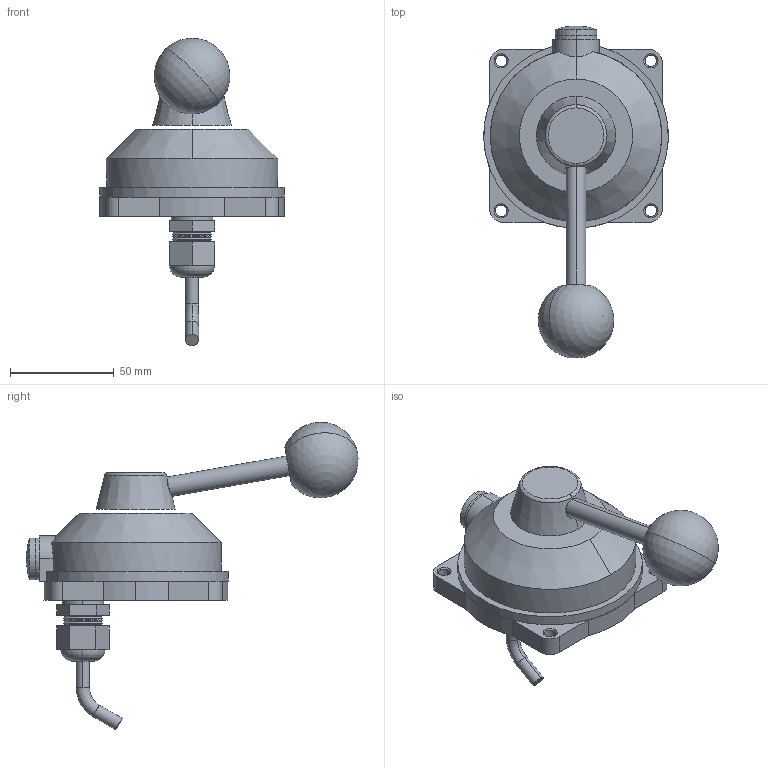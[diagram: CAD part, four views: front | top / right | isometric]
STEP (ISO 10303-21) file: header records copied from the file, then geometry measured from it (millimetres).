
FILE_DESCRIPTION (( 'STEP AP214' ), '1' );
FILE_NAME ('7170-A2.STEP', '2019-02-04T21:42:36', ( '' ), ( '' ), 'SwSTEP 2.0', 'SolidWorks 2017', '' );
FILE_SCHEMA (( 'AUTOMOTIVE_DESIGN' ));
Length unit declared in the file: inch
Products named in the file (1): 7170-A2
Bounding box: 88.86 x 159.83 x 147.96 mm (x, y, z)
Surface area: 42952.2 mm2 (no closed solid volume)
Topology: 0 solids, 14 shells, 295 faces, 855 edges, 574 vertices
Faces by surface type: plane 106, cylinder 87, cone 50, torus 20, bspline 17, sphere 15
Entity records: 21429 total; most frequent: CARTESIAN_POINT 10244, ORIENTED_EDGE 1465, DIRECTION 1445, EDGE_CURVE 849, VERTEX_POINT 570, AXIS2_PLACEMENT_3D 532, VECTOR 381, LINE 381
